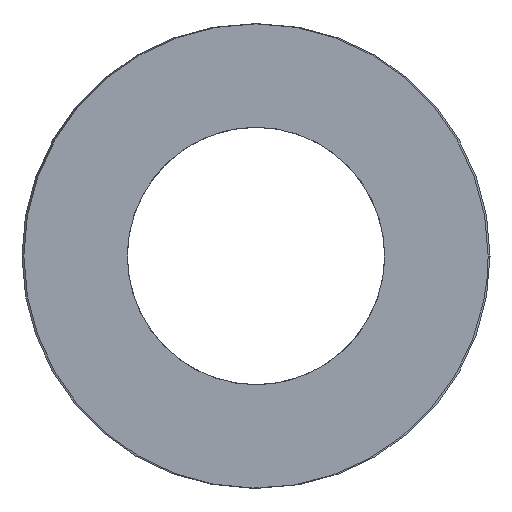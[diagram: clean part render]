
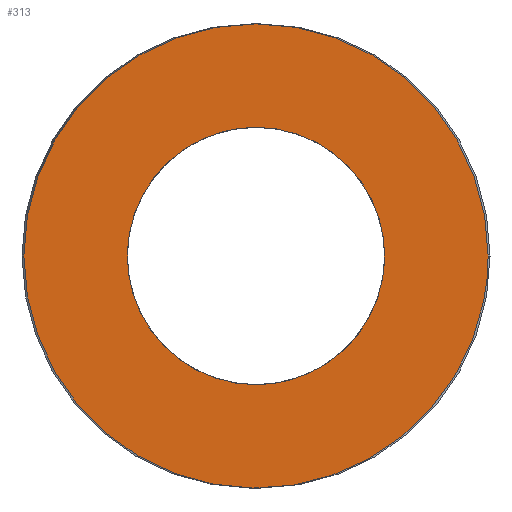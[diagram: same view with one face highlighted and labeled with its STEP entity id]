
A CAD part, left-side view. The second image highlights one B-rep face of the part: STEP entity #313.
In plain terms, the highlighted planar face has unit normal (-1, 0, 0).
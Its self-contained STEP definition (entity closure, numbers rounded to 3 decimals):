
#63=CARTESIAN_POINT('Vertex',(0.,9.2,0.)) ;
#89=CARTESIAN_POINT('Vertex',(0.,-9.2,0.)) ;
#93=CARTESIAN_POINT('Control Point',(0.,9.2,0.)) ;
#94=CARTESIAN_POINT('Control Point',(0.,9.2,-1.445)) ;
#95=CARTESIAN_POINT('Control Point',(0.,8.916,-2.89)) ;
#96=CARTESIAN_POINT('Control Point',(0.,8.348,-4.261)) ;
#97=CARTESIAN_POINT('Control Point',(0.,6.706,-6.706)) ;
#98=CARTESIAN_POINT('Control Point',(0.,4.261,-8.348)) ;
#99=CARTESIAN_POINT('Control Point',(0.,2.89,-8.916)) ;
#100=CARTESIAN_POINT('Control Point',(0.,0.,-9.484)) ;
#101=CARTESIAN_POINT('Control Point',(0.,-2.89,-8.916)) ;
#102=CARTESIAN_POINT('Control Point',(0.,-4.261,-8.348)) ;
#103=CARTESIAN_POINT('Control Point',(0.,-6.706,-6.706)) ;
#104=CARTESIAN_POINT('Control Point',(0.,-8.348,-4.261)) ;
#105=CARTESIAN_POINT('Control Point',(0.,-8.916,-2.89)) ;
#106=CARTESIAN_POINT('Control Point',(0.,-9.2,-1.445)) ;
#107=CARTESIAN_POINT('Control Point',(0.,-9.2,0.)) ;
#121=CARTESIAN_POINT('Axis2P3D Location',(0.,0.,0.)) ;
#250=CARTESIAN_POINT('Axis2P3D Location',(0.,4.6,0.)) ;
#260=CARTESIAN_POINT('Control Point',(0.,0.,-5.1)) ;
#261=CARTESIAN_POINT('Control Point',(0.,0.553,-5.1)) ;
#262=CARTESIAN_POINT('Control Point',(0.,1.106,-5.025)) ;
#263=CARTESIAN_POINT('Control Point',(0.,1.646,-4.875)) ;
#264=CARTESIAN_POINT('Control Point',(0.,2.671,-4.432)) ;
#265=CARTESIAN_POINT('Control Point',(0.,3.541,-3.733)) ;
#266=CARTESIAN_POINT('Control Point',(0.,3.926,-3.326)) ;
#267=CARTESIAN_POINT('Control Point',(0.,4.575,-2.418)) ;
#268=CARTESIAN_POINT('Control Point',(0.,4.96,-1.37)) ;
#269=CARTESIAN_POINT('Control Point',(0.,5.079,-0.822)) ;
#270=CARTESIAN_POINT('Control Point',(0.,5.167,0.291)) ;
#271=CARTESIAN_POINT('Control Point',(0.,4.955,1.387)) ;
#272=CARTESIAN_POINT('Control Point',(0.,4.775,1.917)) ;
#273=CARTESIAN_POINT('Control Point',(0.,4.275,2.916)) ;
#274=CARTESIAN_POINT('Control Point',(0.,3.528,3.745)) ;
#275=CARTESIAN_POINT('Control Point',(0.,3.1,4.106)) ;
#276=CARTESIAN_POINT('Control Point',(0.,2.255,4.642)) ;
#277=CARTESIAN_POINT('Control Point',(0.,1.309,4.959)) ;
#278=CARTESIAN_POINT('Control Point',(0.,0.877,5.053)) ;
#279=CARTESIAN_POINT('Control Point',(0.,0.439,5.1)) ;
#280=CARTESIAN_POINT('Control Point',(0.,0.,5.1)) ;
#281=CARTESIAN_POINT('Vertex',(0.,0.,-5.1)) ;
#283=CARTESIAN_POINT('Vertex',(0.,0.,5.1)) ;
#287=CARTESIAN_POINT('Control Point',(0.,0.,5.1)) ;
#288=CARTESIAN_POINT('Control Point',(0.,-0.553,5.1)) ;
#289=CARTESIAN_POINT('Control Point',(0.,-1.106,5.025)) ;
#290=CARTESIAN_POINT('Control Point',(0.,-1.646,4.875)) ;
#291=CARTESIAN_POINT('Control Point',(0.,-2.671,4.432)) ;
#292=CARTESIAN_POINT('Control Point',(0.,-3.541,3.733)) ;
#293=CARTESIAN_POINT('Control Point',(0.,-3.926,3.326)) ;
#294=CARTESIAN_POINT('Control Point',(0.,-4.575,2.418)) ;
#295=CARTESIAN_POINT('Control Point',(0.,-4.96,1.37)) ;
#296=CARTESIAN_POINT('Control Point',(0.,-5.079,0.822)) ;
#297=CARTESIAN_POINT('Control Point',(0.,-5.167,-0.291)) ;
#298=CARTESIAN_POINT('Control Point',(0.,-4.955,-1.387)) ;
#299=CARTESIAN_POINT('Control Point',(0.,-4.775,-1.917)) ;
#300=CARTESIAN_POINT('Control Point',(0.,-4.275,-2.916)) ;
#301=CARTESIAN_POINT('Control Point',(0.,-3.528,-3.745)) ;
#302=CARTESIAN_POINT('Control Point',(0.,-3.1,-4.106)) ;
#303=CARTESIAN_POINT('Control Point',(0.,-2.255,-4.642)) ;
#304=CARTESIAN_POINT('Control Point',(0.,-1.309,-4.959)) ;
#305=CARTESIAN_POINT('Control Point',(0.,-0.877,-5.053)) ;
#306=CARTESIAN_POINT('Control Point',(0.,-0.439,-5.1)) ;
#307=CARTESIAN_POINT('Control Point',(0.,0.,-5.1)) ;
#122=DIRECTION('Axis2P3D Direction',(1.,-0.,0.)) ;
#251=DIRECTION('Axis2P3D Direction',(-1.,0.,0.)) ;
#252=DIRECTION('Axis2P3D XDirection',(0.,1.,0.)) ;
#123=AXIS2_PLACEMENT_3D('Circle Axis2P3D',#121,#122,$) ;
#253=AXIS2_PLACEMENT_3D('Plane Axis2P3D',#250,#251,#252) ;
#256=ORIENTED_EDGE('',*,*,#108,.T.) ;
#257=ORIENTED_EDGE('',*,*,#125,.T.) ;
#310=ORIENTED_EDGE('',*,*,#285,.T.) ;
#311=ORIENTED_EDGE('',*,*,#308,.T.) ;
#312=FACE_BOUND('',#309,.T.) ;
#313=ADVANCED_FACE('392-B20-127',(#258,#312),#254,.T.) ;
#92=B_SPLINE_CURVE_WITH_KNOTS('',5,(#93,#94,#95,#96,#97,#98,#99,#100,#101,#102,#103,#104,#105,#106,#107),.UNSPECIFIED.,.F.,.U.,(6,3,3,3,6),(-14.451,-7.226,0.,7.226,14.451),.UNSPECIFIED.) ;
#259=B_SPLINE_CURVE_WITH_KNOTS('',5,(#260,#261,#262,#263,#264,#265,#266,#267,#268,#269,#270,#271,#272,#273,#274,#275,#276,#277,#278,#279,#280),.UNSPECIFIED.,.F.,.U.,(6,3,3,3,3,3,6),(0.,3.911,7.823,11.734,15.646,19.557,22.658),.UNSPECIFIED.) ;
#286=B_SPLINE_CURVE_WITH_KNOTS('',5,(#287,#288,#289,#290,#291,#292,#293,#294,#295,#296,#297,#298,#299,#300,#301,#302,#303,#304,#305,#306,#307),.UNSPECIFIED.,.F.,.U.,(6,3,3,3,3,3,6),(0.,3.911,7.823,11.734,15.646,19.557,22.658),.UNSPECIFIED.) ;
#124=CIRCLE('generated circle',#123,9.2) ;
#108=EDGE_CURVE('',#64,#90,#92,.T.) ;
#125=EDGE_CURVE('',#90,#64,#124,.F.) ;
#285=EDGE_CURVE('',#282,#284,#259,.T.) ;
#308=EDGE_CURVE('',#284,#282,#286,.T.) ;
#255=EDGE_LOOP('',(#256,#257)) ;
#309=EDGE_LOOP('',(#310,#311)) ;
#258=FACE_OUTER_BOUND('',#255,.T.) ;
#254=PLANE('Plane',#253) ;
#64=VERTEX_POINT('',#63) ;
#90=VERTEX_POINT('',#89) ;
#282=VERTEX_POINT('',#281) ;
#284=VERTEX_POINT('',#283) ;
